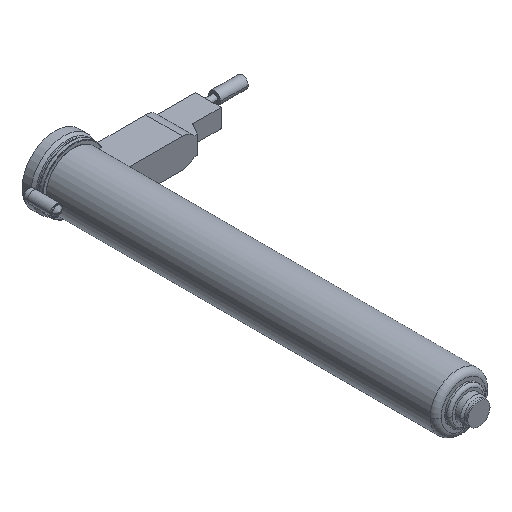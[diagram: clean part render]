
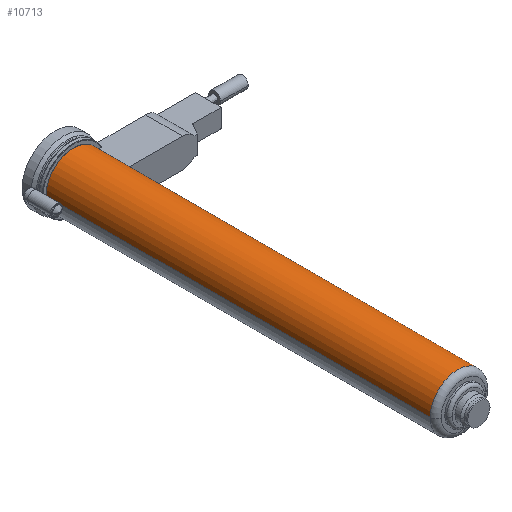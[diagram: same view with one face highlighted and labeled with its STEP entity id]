
A CAD part, isometric view. The second image highlights one B-rep face of the part: STEP entity #10713.
In plain terms, the highlighted cylindrical face has radius 15 mm (diameter 30 mm), a partial arc.
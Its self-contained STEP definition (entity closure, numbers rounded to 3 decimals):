
#9846=CARTESIAN_POINT('',(0.,-10.,0.));
#9847=DIRECTION('',(0.,-1.,0.));
#9848=DIRECTION('',(0.846,0.,0.533));
#9849=AXIS2_PLACEMENT_3D('',#9846,#9847,#9848);
#10031=DIRECTION('',(0.,1.,0.));
#10032=VECTOR('',#10031,208.239);
#10033=CARTESIAN_POINT('',(-15.,-218.239,0.));
#10034=LINE('',#10033,#10032);
#10040=DIRECTION('',(0.,1.,0.));
#10041=VECTOR('',#10040,191.239);
#10042=CARTESIAN_POINT('',(15.,-218.239,0.));
#10043=LINE('',#10042,#10041);
#10044=CARTESIAN_POINT('',(0.,-27.,0.));
#10045=DIRECTION('',(0.,-1.,0.));
#10046=DIRECTION('',(1.,0.,0.));
#10047=AXIS2_PLACEMENT_3D('',#10044,#10045,#10046);
#10049=CARTESIAN_POINT('',(0.,-218.239,0.));
#10050=DIRECTION('',(0.,-1.,0.));
#10051=DIRECTION('',(1.,0.,0.));
#10052=AXIS2_PLACEMENT_3D('',#10049,#10050,#10051);
#10054=DIRECTION('',(0.,-1.,0.));
#10055=VECTOR('',#10054,17.);
#10056=CARTESIAN_POINT('',(12.689,-10.,8.));
#10057=LINE('',#10056,#10055);
#10191=CARTESIAN_POINT('',(15.,-218.239,0.));
#10193=VERTEX_POINT('',#10191);
#10201=CARTESIAN_POINT('',(-15.,-218.239,0.));
#10203=VERTEX_POINT('',#10201);
#10204=CARTESIAN_POINT('',(-15.,-10.,0.));
#10205=VERTEX_POINT('',#10204);
#10244=CARTESIAN_POINT('',(15.,-27.,0.));
#10245=CARTESIAN_POINT('',(12.689,-27.,8.));
#10246=VERTEX_POINT('',#10244);
#10247=VERTEX_POINT('',#10245);
#10248=CARTESIAN_POINT('',(12.689,-10.,8.));
#10249=VERTEX_POINT('',#10248);
#10698=CARTESIAN_POINT('',(0.,11.487,0.));
#10699=DIRECTION('',(0.,-1.,0.));
#10700=DIRECTION('',(-1.,0.,0.));
#10701=AXIS2_PLACEMENT_3D('',#10698,#10699,#10700);
#10702=CYLINDRICAL_SURFACE('',#10701,15.);
#10703=ORIENTED_EDGE('',*,*,#10601,.F.);
#10704=ORIENTED_EDGE('',*,*,#10693,.F.);
#10706=ORIENTED_EDGE('',*,*,#10705,.T.);
#10707=ORIENTED_EDGE('',*,*,#10689,.T.);
#10708=ORIENTED_EDGE('',*,*,#10434,.F.);
#10710=ORIENTED_EDGE('',*,*,#10709,.T.);
#10711=EDGE_LOOP('',(#10703,#10704,#10706,#10707,#10708,#10710));
#10712=FACE_OUTER_BOUND('',#10711,.F.);
#10713=ADVANCED_FACE('',(#10712),#10702,.T.);
#9850=CIRCLE('',#9849,15.);
#10048=CIRCLE('',#10047,15.);
#10053=CIRCLE('',#10052,15.);
#10434=EDGE_CURVE('',#10249,#10205,#9850,.T.);
#10601=EDGE_CURVE('',#10246,#10247,#10048,.T.);
#10689=EDGE_CURVE('',#10203,#10205,#10034,.T.);
#10693=EDGE_CURVE('',#10193,#10246,#10043,.T.);
#10705=EDGE_CURVE('',#10193,#10203,#10053,.T.);
#10709=EDGE_CURVE('',#10249,#10247,#10057,.T.);
